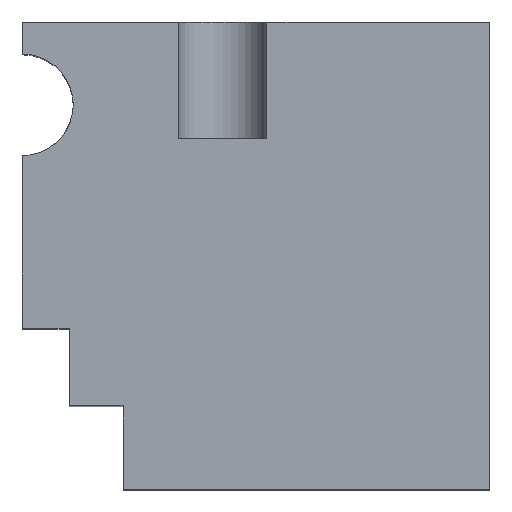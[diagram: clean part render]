
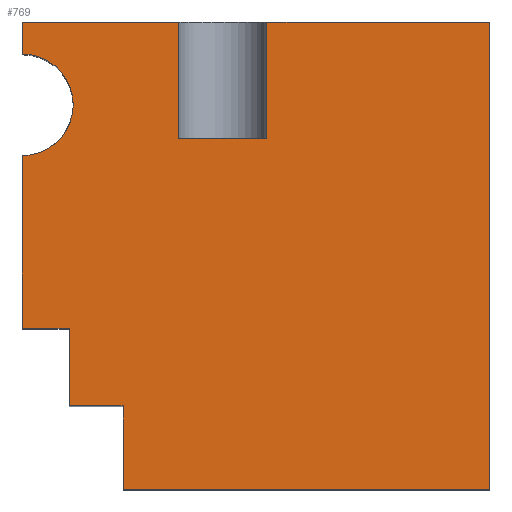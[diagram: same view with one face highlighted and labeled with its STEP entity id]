
A CAD part, top view. The second image highlights one B-rep face of the part: STEP entity #769.
In plain terms, the highlighted planar face has unit normal (0, 0, 1).
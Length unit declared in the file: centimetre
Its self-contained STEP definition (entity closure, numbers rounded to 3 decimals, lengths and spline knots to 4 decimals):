
#7 = ORIENTED_EDGE ( 'NONE', *, *, #803, .F. ) ;
#10 = ORIENTED_EDGE ( 'NONE', *, *, #440, .T. ) ;
#37 = CARTESIAN_POINT ( 'NONE',  ( 0., 931.4525, 1000. ) ) ;
#43 = CARTESIAN_POINT ( 'NONE',  ( 0., 1000., 1000. ) ) ;
#62 = CARTESIAN_POINT ( 'NONE',  ( 0., 1000., 1000. ) ) ;
#82 = CARTESIAN_POINT ( 'NONE',  ( 1000., 1000., 1000. ) ) ;
#91 = VERTEX_POINT ( 'NONE', #37 ) ;
#99 = DIRECTION ( 'NONE',  ( 1., 0., 0. ) ) ;
#110 = LINE ( 'NONE', #43, #856 ) ;
#116 = CARTESIAN_POINT ( 'NONE',  ( 0., 178.1249, 1000. ) ) ;
#118 = DIRECTION ( 'NONE',  ( 1., 0., 0. ) ) ;
#127 = DIRECTION ( 'NONE',  ( 1., 0., 0. ) ) ;
#141 = LINE ( 'NONE', #82, #488 ) ;
#142 = LINE ( 'NONE', #430, #821 ) ;
#168 = CARTESIAN_POINT ( 'NONE',  ( 0., 822.7464, 1000. ) ) ;
#180 = VERTEX_POINT ( 'NONE', #692 ) ;
#190 = VERTEX_POINT ( 'NONE', #352 ) ;
#191 = CARTESIAN_POINT ( 'NONE',  ( 523.4211, 751.6557, 1000. ) ) ;
#196 = EDGE_CURVE ( 'NONE', #506, #355, #110, .T. ) ;
#197 = VECTOR ( 'NONE', #496, 100. ) ;
#208 = EDGE_CURVE ( 'NONE', #412, #760, #476, .T. ) ;
#210 = ORIENTED_EDGE ( 'NONE', *, *, #857, .T. ) ;
#217 = DIRECTION ( 'NONE',  ( 0., -1., 0. ) ) ;
#225 = CARTESIAN_POINT ( 'NONE',  ( 0., 714.0404, 1000. ) ) ;
#227 = DIRECTION ( 'NONE',  ( 0., 1., 0. ) ) ;
#233 = VECTOR ( 'NONE', #780, 100. ) ;
#248 = VERTEX_POINT ( 'NONE', #751 ) ;
#251 = AXIS2_PLACEMENT_3D ( 'NONE', #262, #550, #127 ) ;
#262 = CARTESIAN_POINT ( 'NONE',  ( 0., 0., 1000. ) ) ;
#264 = CARTESIAN_POINT ( 'NONE',  ( 0., 344.6066, 1000. ) ) ;
#268 = DIRECTION ( 'NONE',  ( -1., 0., 0. ) ) ;
#270 = ORIENTED_EDGE ( 'NONE', *, *, #560, .T. ) ;
#271 = LINE ( 'NONE', #420, #283 ) ;
#283 = VECTOR ( 'NONE', #770, 100. ) ;
#296 = ORIENTED_EDGE ( 'NONE', *, *, #486, .F. ) ;
#302 = ORIENTED_EDGE ( 'NONE', *, *, #317, .F. ) ;
#306 = ORIENTED_EDGE ( 'NONE', *, *, #574, .T. ) ;
#312 = CARTESIAN_POINT ( 'NONE',  ( 215.3512, 0., 1000. ) ) ;
#317 = EDGE_CURVE ( 'NONE', #728, #412, #392, .T. ) ;
#321 = CARTESIAN_POINT ( 'NONE',  ( 0., 1000., 1000. ) ) ;
#333 = CARTESIAN_POINT ( 'NONE',  ( 100.0858, 178.1249, 1000. ) ) ;
#339 = CARTESIAN_POINT ( 'NONE',  ( 334.6349, 751.6557, 1000. ) ) ;
#352 = CARTESIAN_POINT ( 'NONE',  ( 1000., 1000., 1000. ) ) ;
#355 = VERTEX_POINT ( 'NONE', #264 ) ;
#377 = EDGE_CURVE ( 'NONE', #728, #792, #414, .T. ) ;
#392 = LINE ( 'NONE', #312, #755 ) ;
#406 = CIRCLE ( 'NONE', #702, 108.7061 ) ;
#407 = DIRECTION ( 'NONE',  ( -1., 0., 0. ) ) ;
#408 = LINE ( 'NONE', #339, #233 ) ;
#410 = FACE_OUTER_BOUND ( 'NONE', #866, .T. ) ;
#412 = VERTEX_POINT ( 'NONE', #838 ) ;
#414 = LINE ( 'NONE', #619, #197 ) ;
#420 = CARTESIAN_POINT ( 'NONE',  ( 523.4211, 751.6557, 1000. ) ) ;
#423 = ORIENTED_EDGE ( 'NONE', *, *, #767, .F. ) ;
#430 = CARTESIAN_POINT ( 'NONE',  ( 0., 1000., 1000. ) ) ;
#434 = CARTESIAN_POINT ( 'NONE',  ( 100.0858, 64.3502, 1000. ) ) ;
#440 = EDGE_CURVE ( 'NONE', #723, #754, #408, .T. ) ;
#452 = CARTESIAN_POINT ( 'NONE',  ( 334.6349, 751.6557, 1000. ) ) ;
#458 = VERTEX_POINT ( 'NONE', #191 ) ;
#476 = LINE ( 'NONE', #116, #644 ) ;
#483 = LINE ( 'NONE', #627, #540 ) ;
#486 = EDGE_CURVE ( 'NONE', #760, #180, #589, .T. ) ;
#488 = VECTOR ( 'NONE', #227, 100. ) ;
#496 = DIRECTION ( 'NONE',  ( 1., 0., 0. ) ) ;
#499 = LINE ( 'NONE', #578, #686 ) ;
#504 = DIRECTION ( 'NONE',  ( -1., 0., 0. ) ) ;
#506 = VERTEX_POINT ( 'NONE', #225 ) ;
#509 = DIRECTION ( 'NONE',  ( -1., 0., 0. ) ) ;
#531 = CARTESIAN_POINT ( 'NONE',  ( 108.7061, 822.7464, 1000. ) ) ;
#533 = VECTOR ( 'NONE', #268, 100. ) ;
#536 = DIRECTION ( 'NONE',  ( 0., 1., 0. ) ) ;
#537 = ORIENTED_EDGE ( 'NONE', *, *, #208, .F. ) ;
#540 = VECTOR ( 'NONE', #407, 100. ) ;
#542 = DIRECTION ( 'NONE',  ( 0., 0., 1. ) ) ;
#544 = DIRECTION ( 'NONE',  ( 0., -1., 0. ) ) ;
#545 = EDGE_CURVE ( 'NONE', #613, #91, #499, .T. ) ;
#550 = DIRECTION ( 'NONE',  ( 0., 0., 1. ) ) ;
#560 = EDGE_CURVE ( 'NONE', #190, #248, #142, .T. ) ;
#574 = EDGE_CURVE ( 'NONE', #458, #723, #868, .T. ) ;
#578 = CARTESIAN_POINT ( 'NONE',  ( 0., 1000., 1000. ) ) ;
#584 = VECTOR ( 'NONE', #504, 100. ) ;
#586 = ORIENTED_EDGE ( 'NONE', *, *, #918, .T. ) ;
#589 = LINE ( 'NONE', #434, #775 ) ;
#596 = DIRECTION ( 'NONE',  ( -1., 0., 0. ) ) ;
#598 = CARTESIAN_POINT ( 'NONE',  ( 215.3512, 0., 1000. ) ) ;
#600 = ORIENTED_EDGE ( 'NONE', *, *, #606, .F. ) ;
#606 = EDGE_CURVE ( 'NONE', #694, #91, #804, .T. ) ;
#613 = VERTEX_POINT ( 'NONE', #321 ) ;
#619 = CARTESIAN_POINT ( 'NONE',  ( 0., 0., 1000. ) ) ;
#627 = CARTESIAN_POINT ( 'NONE',  ( 0., 344.6066, 1000. ) ) ;
#644 = VECTOR ( 'NONE', #596, 100. ) ;
#648 = EDGE_CURVE ( 'NONE', #506, #694, #406, .T. ) ;
#686 = VECTOR ( 'NONE', #217, 100. ) ;
#692 = CARTESIAN_POINT ( 'NONE',  ( 100.0858, 344.6066, 1000. ) ) ;
#694 = VERTEX_POINT ( 'NONE', #531 ) ;
#702 = AXIS2_PLACEMENT_3D ( 'NONE', #168, #542, #99 ) ;
#723 = VERTEX_POINT ( 'NONE', #452 ) ;
#724 = ORIENTED_EDGE ( 'NONE', *, *, #377, .T. ) ;
#728 = VERTEX_POINT ( 'NONE', #598 ) ;
#733 = CARTESIAN_POINT ( 'NONE',  ( 0., 822.7464, 1000. ) ) ;
#751 = CARTESIAN_POINT ( 'NONE',  ( 523.4211, 1000., 1000. ) ) ;
#754 = VERTEX_POINT ( 'NONE', #898 ) ;
#755 = VECTOR ( 'NONE', #536, 100. ) ;
#760 = VERTEX_POINT ( 'NONE', #333 ) ;
#765 = PLANE ( 'NONE',  #251 ) ;
#767 = EDGE_CURVE ( 'NONE', #458, #248, #271, .T. ) ;
#769 = ADVANCED_FACE ( 'NONE', ( #410 ), #765, .T. ) ;
#770 = DIRECTION ( 'NONE',  ( 0., 1., 0. ) ) ;
#775 = VECTOR ( 'NONE', #790, 100. ) ;
#779 = CARTESIAN_POINT ( 'NONE',  ( 1000., 0., 1000. ) ) ;
#780 = DIRECTION ( 'NONE',  ( 0., 1., 0. ) ) ;
#790 = DIRECTION ( 'NONE',  ( 0., 1., 0. ) ) ;
#792 = VERTEX_POINT ( 'NONE', #779 ) ;
#795 = ORIENTED_EDGE ( 'NONE', *, *, #545, .T. ) ;
#798 = CARTESIAN_POINT ( 'NONE',  ( 0., 751.6557, 1000. ) ) ;
#800 = ORIENTED_EDGE ( 'NONE', *, *, #196, .T. ) ;
#803 = EDGE_CURVE ( 'NONE', #180, #355, #483, .T. ) ;
#804 = CIRCLE ( 'NONE', #922, 108.7061 ) ;
#821 = VECTOR ( 'NONE', #509, 100. ) ;
#838 = CARTESIAN_POINT ( 'NONE',  ( 215.3512, 178.1249, 1000. ) ) ;
#856 = VECTOR ( 'NONE', #544, 100. ) ;
#857 = EDGE_CURVE ( 'NONE', #754, #613, #901, .T. ) ;
#866 = EDGE_LOOP ( 'NONE', ( #893, #800, #7, #296, #537, #302, #724, #586, #270, #423, #306, #10, #210, #795, #600 ) ) ;
#868 = LINE ( 'NONE', #798, #584 ) ;
#875 = DIRECTION ( 'NONE',  ( 0., 0., 1. ) ) ;
#893 = ORIENTED_EDGE ( 'NONE', *, *, #648, .F. ) ;
#898 = CARTESIAN_POINT ( 'NONE',  ( 334.6349, 1000., 1000. ) ) ;
#901 = LINE ( 'NONE', #62, #533 ) ;
#918 = EDGE_CURVE ( 'NONE', #792, #190, #141, .T. ) ;
#922 = AXIS2_PLACEMENT_3D ( 'NONE', #733, #875, #118 ) ;
